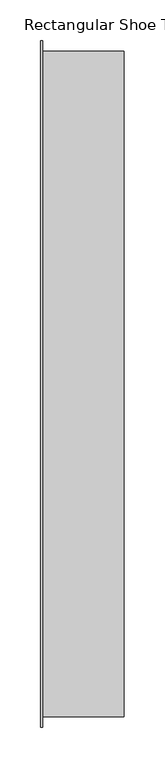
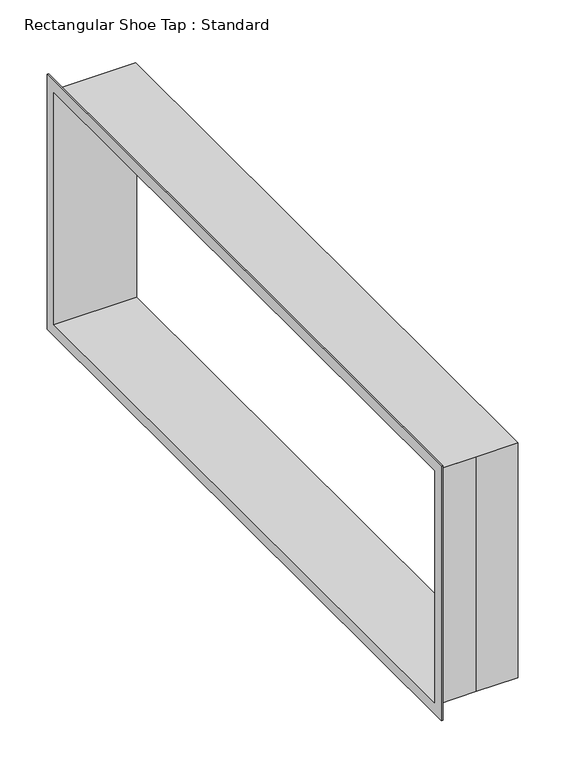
"""IFC4 building model written with IfcOpenShell, lengths in millimetres: duct fitting geometry, Rectangular Shoe Tap : Standard."""

from ifc_helpers import new_model, si_unit, origin, place, context, project, spatial, faceted_brep, source, transform, mapped, element, save


def rectangular_shoe_tap_standard_f1dc0b4b(model_context):
    return source(origin(), model_context, "Body", "Brep", [
        faceted_brep([(101.6, -406.4, 152.4), (101.6, 406.4, 152.4), (99.6, 406.4, 152.4), (2.0, 406.4, 152.4), (2.0, -406.4, 152.4), (50.8, -406.4, 152.4), (99.6, -406.4, 152.4), (101.6, 406.4, -152.4), (101.6, -406.4, -152.4), (99.6, -406.4, -152.4), (50.8, -406.4, -152.4), (2.0, -406.4, -152.4), (2.0, 406.4, -152.4), (99.6, 406.4, -152.4), (101.6, -404.4, 150.4), (101.6, 404.4, 150.4), (101.6, 404.4, -150.4), (101.6, -404.4, -150.4), (2.0, -419.1, 165.1), (2.0, -419.1, -165.1), (2.0, 419.1, -165.1), (2.0, 419.1, 165.1), (0.0, -419.1, 165.1), (0.0, 419.1, 165.1), (0.0, 419.1, -165.1), (0.0, -419.1, -165.1), (0.0, 404.4, 150.4), (0.0, -404.4, 150.4), (0.0, -404.4, -150.4), (0.0, 404.4, -150.4), (48.8, -404.4, 150.4), (48.8, -404.4, -150.4)], [[[0, 1, 2, 3, 4, 5, 6]], [[7, 8, 9, 10, 11, 12, 13]], [[5, 10, 9, 8, 0, 6]], [[1, 0, 8, 7], [14, 15, 16, 17]], [[1, 7, 13, 12, 3, 2]], [[18, 19, 20, 21], [4, 3, 12, 11]], [[22, 23, 24, 25], [26, 27, 28, 29]], [[19, 18, 22, 25]], [[20, 19, 25, 24]], [[21, 20, 24, 23]], [[18, 21, 23, 22]], [[14, 30, 27, 26, 15]], [[31, 17, 16, 29, 28]], [[30, 14, 17, 31]], [[16, 15, 26, 29]], [[10, 5, 4, 11]], [[30, 31, 28, 27]]]),
        faceted_brep([(101.6, -404.4, 150.4), (48.8, -404.4, 150.4), (0.0, -404.4, 150.4), (0.0, 404.4, 150.4), (101.6, 404.4, 150.4), (48.8, -404.4, -150.4), (101.6, -404.4, -150.4), (101.6, 404.4, -150.4), (0.0, 404.4, -150.4), (0.0, -404.4, -150.4), (0.0, 406.4, 152.4), (0.0, -406.4, 152.4), (50.8, -406.4, 152.4), (101.6, -406.4, 152.4), (101.6, 406.4, 152.4), (50.0, 406.4, 152.4), (0.0, -406.4, -152.4), (0.0, 406.4, -152.4), (50.0, 406.4, -152.4), (101.6, 406.4, -152.4), (101.6, -406.4, -152.4), (50.8, -406.4, -152.4)], [[[0, 1, 2, 3, 4]], [[5, 6, 7, 8, 9]], [[1, 0, 6, 5]], [[4, 3, 8, 7]], [[10, 11, 12, 13, 14, 15]], [[16, 17, 18, 19, 20, 21]], [[10, 17, 16, 11], [2, 9, 8, 3]], [[19, 14, 13, 20], [0, 4, 7, 6]], [[15, 14, 19, 18]], [[10, 15, 18, 17]], [[1, 5, 9, 2]], [[13, 12, 21, 20]], [[12, 11, 16, 21]]]),
    ])


if __name__ == "__main__":
    model = new_model("IFC4")
    model_context = context("Model", 3, world=origin())
    ifc_project = project(units=[si_unit("LENGTHUNIT", "METRE", prefix="MILLI")], contexts=[model_context])
    site = spatial("IfcSite", under=ifc_project)
    building = spatial("IfcBuilding", under=site)
    placement = place(None, origin())
    rectangular_shoe_tap_standard_shape = rectangular_shoe_tap_standard_f1dc0b4b(model_context)
    element("IfcDuctFitting", 1, ObjectType="Rectangular Shoe Tap : Standard", at=placement, inside=building, context=model_context, shape_type="MappedRepresentation", body=[
        mapped(rectangular_shoe_tap_standard_shape, transform((0.0, 0.0, 0.0), x_axis=(1.0, 0.0, 0.0), y_axis=(0.0, 1.0, 0.0), z_axis=(0.0, 0.0, 1.0))),
    ])
    save(model, "model.ifc")
